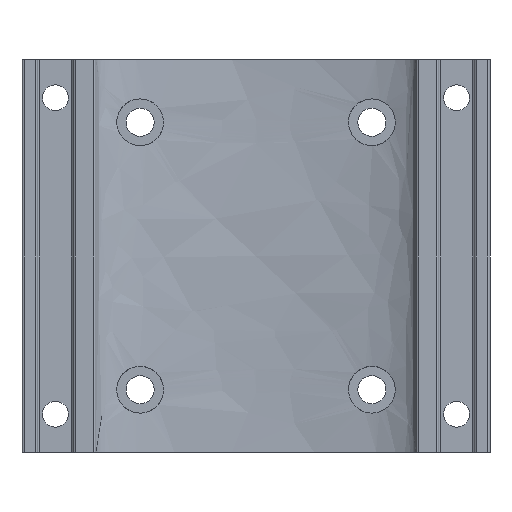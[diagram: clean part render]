
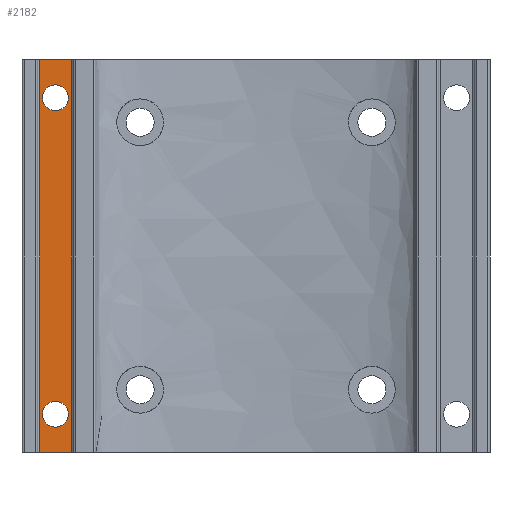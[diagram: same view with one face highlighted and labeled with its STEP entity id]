
A CAD part, front view. The second image highlights one B-rep face of the part: STEP entity #2182.
In plain terms, the highlighted planar face has unit normal (0, -1, 0).
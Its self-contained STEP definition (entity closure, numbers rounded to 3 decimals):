
#100 = CARTESIAN_POINT ( 'NONE',  ( -49., -9.5, 0. ) ) ;
#134 = AXIS2_PLACEMENT_3D ( 'NONE', #1957, #816, #2153 ) ;
#179 = CIRCLE ( 'NONE', #517, 2.9 ) ;
#206 = VERTEX_POINT ( 'NONE', #1784 ) ;
#363 = LINE ( 'NONE', #100, #1333 ) ;
#385 = LINE ( 'NONE', #837, #2205 ) ;
#422 = VERTEX_POINT ( 'NONE', #908 ) ;
#426 = VERTEX_POINT ( 'NONE', #805 ) ;
#428 = DIRECTION ( 'NONE',  ( 0., 0., 1. ) ) ;
#458 = AXIS2_PLACEMENT_3D ( 'NONE', #1485, #1497, #1509 ) ;
#507 = EDGE_CURVE ( 'NONE', #426, #2195, #611, .T. ) ;
#517 = AXIS2_PLACEMENT_3D ( 'NONE', #633, #1980, #835 ) ;
#541 = LINE ( 'NONE', #1014, #2018 ) ;
#588 = DIRECTION ( 'NONE',  ( -1., 0., 0. ) ) ;
#611 = CIRCLE ( 'NONE', #458, 2.9 ) ;
#614 = DIRECTION ( 'NONE',  ( -1., 0., 0. ) ) ;
#633 = CARTESIAN_POINT ( 'NONE',  ( -45., -9.5, -79.5 ) ) ;
#655 = ORIENTED_EDGE ( 'NONE', *, *, #2256, .T. ) ;
#664 = VERTEX_POINT ( 'NONE', #2045 ) ;
#688 = DIRECTION ( 'NONE',  ( 0., 0., -1. ) ) ;
#689 = DIRECTION ( 'NONE',  ( -1., 0., 0. ) ) ;
#690 = VERTEX_POINT ( 'NONE', #2103 ) ;
#693 = AXIS2_PLACEMENT_3D ( 'NONE', #817, #1103, #614 ) ;
#763 = ORIENTED_EDGE ( 'NONE', *, *, #2305, .T. ) ;
#791 = CARTESIAN_POINT ( 'NONE',  ( -47.9, -9.5, -79.5 ) ) ;
#805 = CARTESIAN_POINT ( 'NONE',  ( -42.1, -9.5, -79.5 ) ) ;
#816 = DIRECTION ( 'NONE',  ( 0., 1., 0. ) ) ;
#817 = CARTESIAN_POINT ( 'NONE',  ( -45., -9.5, -8.5 ) ) ;
#835 = DIRECTION ( 'NONE',  ( -1., 0., 0. ) ) ;
#837 = CARTESIAN_POINT ( 'NONE',  ( -41.5, -9.5, 0. ) ) ;
#881 = FACE_BOUND ( 'NONE', #1832, .T. ) ;
#908 = CARTESIAN_POINT ( 'NONE',  ( -41.5, -9.5, 0. ) ) ;
#942 = VERTEX_POINT ( 'NONE', #2069 ) ;
#990 = FACE_BOUND ( 'NONE', #1186, .T. ) ;
#1014 = CARTESIAN_POINT ( 'NONE',  ( -49., -9.5, -88. ) ) ;
#1087 = EDGE_CURVE ( 'NONE', #942, #422, #385, .T. ) ;
#1103 = DIRECTION ( 'NONE',  ( 0., 1., 0. ) ) ;
#1159 = DIRECTION ( 'NONE',  ( 0., 1., 0. ) ) ;
#1186 = EDGE_LOOP ( 'NONE', ( #763, #1306 ) ) ;
#1265 = DIRECTION ( 'NONE',  ( -1., 0., 0. ) ) ;
#1270 = CIRCLE ( 'NONE', #134, 2.9 ) ;
#1306 = ORIENTED_EDGE ( 'NONE', *, *, #507, .T. ) ;
#1333 = VECTOR ( 'NONE', #1265, 1000. ) ;
#1399 = VERTEX_POINT ( 'NONE', #1941 ) ;
#1485 = CARTESIAN_POINT ( 'NONE',  ( -45., -9.5, -79.5 ) ) ;
#1497 = DIRECTION ( 'NONE',  ( 0., 1., 0. ) ) ;
#1509 = DIRECTION ( 'NONE',  ( -1., 0., 0. ) ) ;
#1514 = CIRCLE ( 'NONE', #693, 2.9 ) ;
#1549 = CARTESIAN_POINT ( 'NONE',  ( -49., -9.5, -88. ) ) ;
#1633 = EDGE_LOOP ( 'NONE', ( #2270, #2468, #2172, #1653 ) ) ;
#1637 = EDGE_CURVE ( 'NONE', #422, #690, #363, .T. ) ;
#1653 = ORIENTED_EDGE ( 'NONE', *, *, #2401, .T. ) ;
#1704 = LINE ( 'NONE', #2030, #2096 ) ;
#1732 = PLANE ( 'NONE',  #1847 ) ;
#1742 = ORIENTED_EDGE ( 'NONE', *, *, #2110, .T. ) ;
#1784 = CARTESIAN_POINT ( 'NONE',  ( -48.5, -9.5, -88. ) ) ;
#1832 = EDGE_LOOP ( 'NONE', ( #655, #1742 ) ) ;
#1847 = AXIS2_PLACEMENT_3D ( 'NONE', #1549, #1159, #588 ) ;
#1941 = CARTESIAN_POINT ( 'NONE',  ( -42.1, -9.5, -8.5 ) ) ;
#1957 = CARTESIAN_POINT ( 'NONE',  ( -45., -9.5, -8.5 ) ) ;
#1980 = DIRECTION ( 'NONE',  ( 0., 1., 0. ) ) ;
#2018 = VECTOR ( 'NONE', #689, 1000. ) ;
#2030 = CARTESIAN_POINT ( 'NONE',  ( -48.5, -9.5, -88. ) ) ;
#2045 = CARTESIAN_POINT ( 'NONE',  ( -47.9, -9.5, -8.5 ) ) ;
#2069 = CARTESIAN_POINT ( 'NONE',  ( -41.5, -9.5, -88. ) ) ;
#2091 = EDGE_CURVE ( 'NONE', #942, #206, #541, .T. ) ;
#2096 = VECTOR ( 'NONE', #688, 1000. ) ;
#2103 = CARTESIAN_POINT ( 'NONE',  ( -48.5, -9.5, 0. ) ) ;
#2110 = EDGE_CURVE ( 'NONE', #1399, #664, #1514, .T. ) ;
#2153 = DIRECTION ( 'NONE',  ( -1., 0., 0. ) ) ;
#2172 = ORIENTED_EDGE ( 'NONE', *, *, #1637, .T. ) ;
#2182 = ADVANCED_FACE ( 'NONE', ( #990, #881, #2425 ), #1732, .F. ) ;
#2195 = VERTEX_POINT ( 'NONE', #791 ) ;
#2205 = VECTOR ( 'NONE', #428, 1000. ) ;
#2256 = EDGE_CURVE ( 'NONE', #664, #1399, #1270, .T. ) ;
#2270 = ORIENTED_EDGE ( 'NONE', *, *, #2091, .F. ) ;
#2305 = EDGE_CURVE ( 'NONE', #2195, #426, #179, .T. ) ;
#2401 = EDGE_CURVE ( 'NONE', #690, #206, #1704, .T. ) ;
#2425 = FACE_OUTER_BOUND ( 'NONE', #1633, .T. ) ;
#2468 = ORIENTED_EDGE ( 'NONE', *, *, #1087, .T. ) ;
